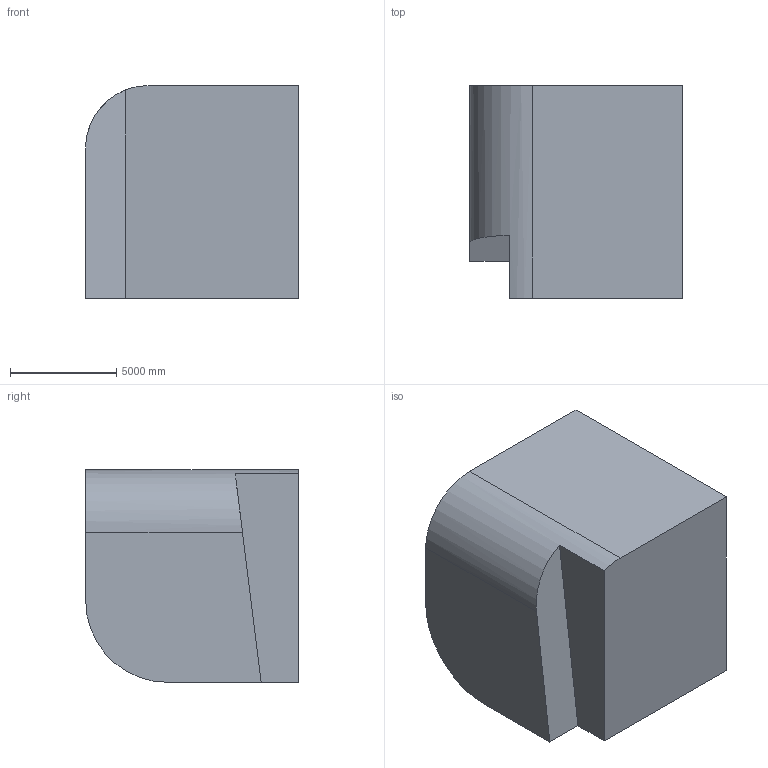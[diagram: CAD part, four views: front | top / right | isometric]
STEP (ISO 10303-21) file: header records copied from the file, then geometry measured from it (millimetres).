
FILE_DESCRIPTION (( 'STEP AP203' ), '1' );
FILE_NAME ('1222.STEP', '2022-08-18T13:15:30', ( 'user' ), ( '' ), 'SwSTEP 2.0', 'SolidWorks 2021', '' );
FILE_SCHEMA (( 'CONFIG_CONTROL_DESIGN' ));
Length unit declared in the file: centimetre
Products named in the file (1): 1222
Bounding box: 10000 x 10000 x 10000 mm (x, y, z)
Volume: 910726892699.5 mm3; surface area: 555501814.5 mm2
Topology: 1 solids, 1 shells, 10 faces, 24 edges, 16 vertices
Faces by surface type: plane 8, cylinder 2
Entity records: 369 total; most frequent: CARTESIAN_POINT 54, DIRECTION 49, ORIENTED_EDGE 48, EDGE_CURVE 24, VECTOR 19, LINE 19, VERTEX_POINT 16, AXIS2_PLACEMENT_3D 15
